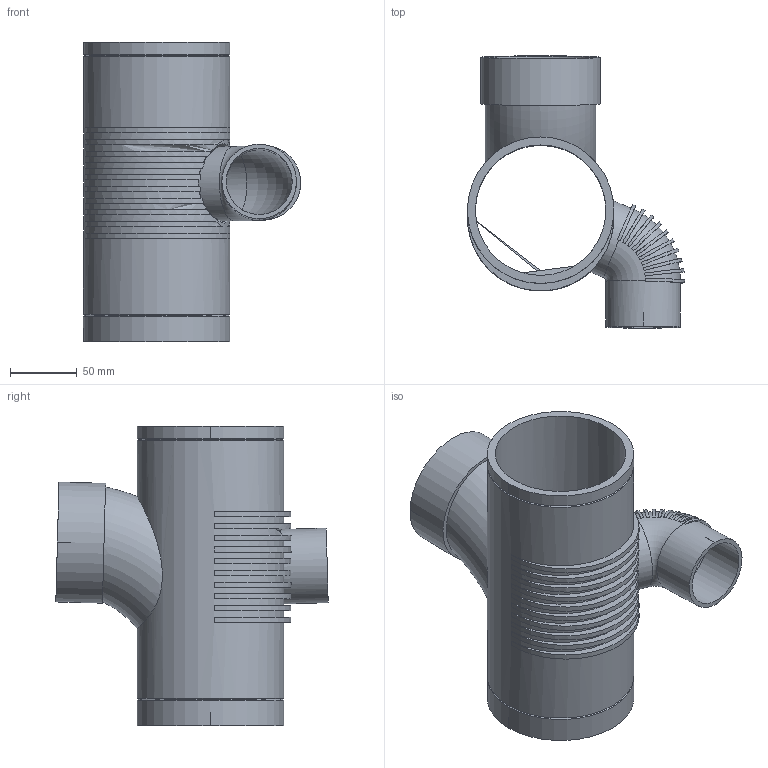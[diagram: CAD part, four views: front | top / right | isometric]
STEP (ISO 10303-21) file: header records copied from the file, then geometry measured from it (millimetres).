
FILE_DESCRIPTION(/* description */ (''),/* implementation_level */ '2;1');
FILE_NAME(/* name */ '310875.stp',/* time_stamp */ '2023-07-21T13:03:04+02:00',/* author */ ('JANAN'),/* organization */ (''),/* preprocessor_version */ 'ST-DEVELOPER v19.2',/* originating_system */ 'Autodesk Inventor 2023',/* authorisation */ '');
FILE_SCHEMA (('AUTOMOTIVE_DESIGN { 1 0 10303 214 3 1 1 }'));
Length unit declared in the file: millimetre
Products named in the file (1): tmpF1FF.tmp
Bounding box: 163.1 x 204.52 x 225 mm (x, y, z)
Volume: 574932.2 mm3; surface area: 220291 mm2
Topology: 1 solids, 1 shells, 133 faces, 326 edges, 217 vertices
Faces by surface type: plane 80, cylinder 43, cone 4, torus 4, bspline 2
Full cylindrical faces by diameter (mm): 49.6 x2, 56 x2, 79 x1, 90 x1, 98 x1, 110 x2
Entity records: 5320 total; most frequent: CARTESIAN_POINT 1985, DIRECTION 659, ORIENTED_EDGE 652, EDGE_CURVE 326, AXIS2_PLACEMENT_3D 272, VERTEX_POINT 217, EDGE_LOOP 161, CIRCLE 139
